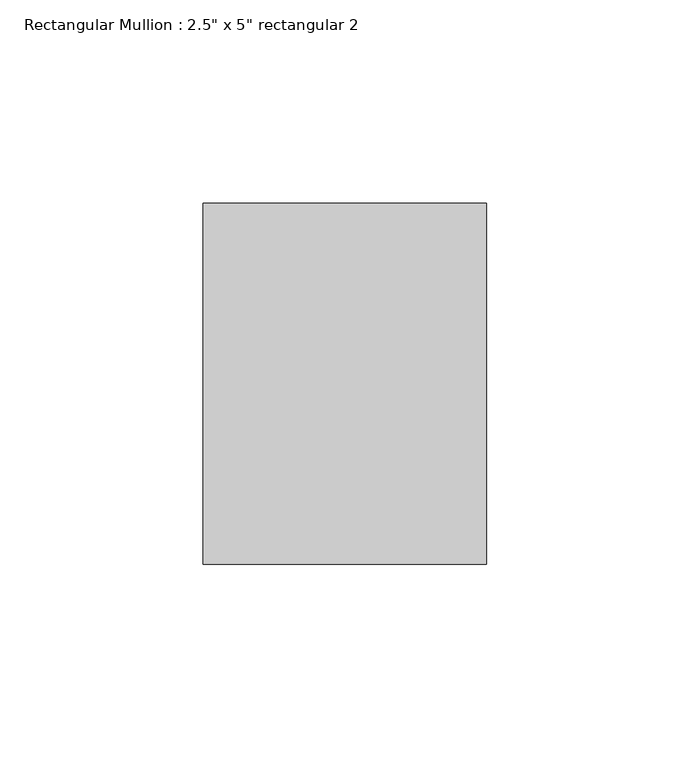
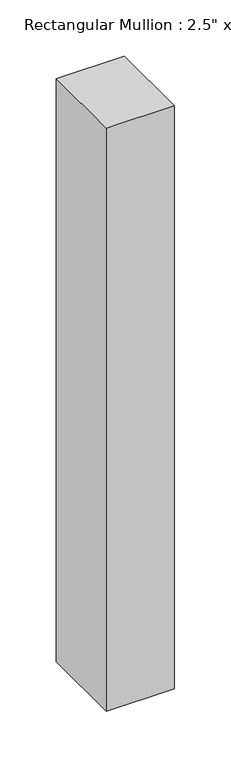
"""IFC4 building model written with IfcOpenShell, lengths in millimetres: member geometry."""

from ifc_helpers import new_model, si_unit, frame, origin, place, context, project, spatial, polyline, outline, extrude, source, transform, mapped, element, save


def member_acb6c1a4(model_context):
    return source(origin(), model_context, "Body", "SweptSolid", [
        extrude(outline(polyline([(0.0, 44.45), (0.0, -44.45), (-69.85, -44.45), (-69.85, 44.45), (0.0, 44.45)])), frame((0.0, 0.0, -632.7821279), z_axis=(0.0, 0.0, 1.0), x_axis=(1.0, 0.0, 0.0)), (0.0, 0.0, 1.0), 632.7821279),
    ])


if __name__ == "__main__":
    model = new_model("IFC4")
    model_context = context("Model", 3, world=origin())
    ifc_project = project(units=[si_unit("LENGTHUNIT", "METRE", prefix="MILLI")], contexts=[model_context])
    site = spatial("IfcSite", under=ifc_project)
    building = spatial("IfcBuilding", under=site)
    placement = place(None, origin())
    member_shape = member_acb6c1a4(model_context)
    element("IfcMember", 1, ObjectType="Rectangular Mullion : 2.5\" x 5\" rectangular 2", at=placement, inside=building, context=model_context, shape_type="MappedRepresentation", body=[
        mapped(member_shape, transform((0.0, 0.0, 0.0), x_axis=(1.0, 0.0, 0.0), y_axis=(0.0, 1.0, 0.0), z_axis=(0.0, 0.0, 1.0))),
    ])
    save(model, "model.ifc")
